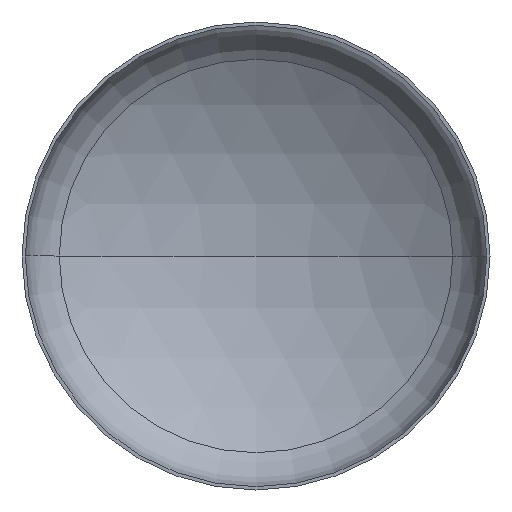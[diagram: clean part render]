
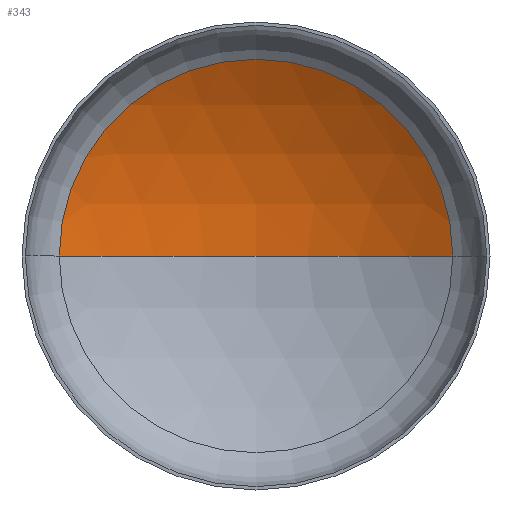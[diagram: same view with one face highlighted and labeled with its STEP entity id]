
A CAD part, front view. The second image highlights one B-rep face of the part: STEP entity #343.
In plain terms, the highlighted spherical face has radius 1360 mm.
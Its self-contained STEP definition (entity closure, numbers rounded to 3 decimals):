
#4 = DIRECTION ( 'NONE',  ( 0., -1., 0. ) ) ;
#9 = CARTESIAN_POINT ( 'NONE',  ( 0., 261.214, 0. ) ) ;
#10 = EDGE_LOOP ( 'NONE', ( #24, #222, #59 ) ) ;
#14 = AXIS2_PLACEMENT_3D ( 'NONE', #257, #383, #235 ) ;
#15 = AXIS2_PLACEMENT_3D ( 'NONE', #387, #275, #327 ) ;
#24 = ORIENTED_EDGE ( 'NONE', *, *, #349, .F. ) ;
#46 = AXIS2_PLACEMENT_3D ( 'NONE', #94, #195, #204 ) ;
#51 = AXIS2_PLACEMENT_3D ( 'NONE', #9, #4, #304 ) ;
#55 = VERTEX_POINT ( 'NONE', #297 ) ;
#59 = ORIENTED_EDGE ( 'NONE', *, *, #126, .T. ) ;
#94 = CARTESIAN_POINT ( 'NONE',  ( 0., -895.904, 0. ) ) ;
#126 = EDGE_CURVE ( 'NONE', #178, #184, #128, .T. ) ;
#128 = CIRCLE ( 'NONE', #51, 714.618 ) ;
#155 = EDGE_CURVE ( 'NONE', #55, #178, #272, .T. ) ;
#162 = CIRCLE ( 'NONE', #15, 1360. ) ;
#178 = VERTEX_POINT ( 'NONE', #227 ) ;
#184 = VERTEX_POINT ( 'NONE', #273 ) ;
#195 = DIRECTION ( 'NONE',  ( 0., 0., -1. ) ) ;
#204 = DIRECTION ( 'NONE',  ( -1., 0., 0. ) ) ;
#222 = ORIENTED_EDGE ( 'NONE', *, *, #155, .T. ) ;
#227 = CARTESIAN_POINT ( 'NONE',  ( 714.618, 261.214, 0. ) ) ;
#235 = DIRECTION ( 'NONE',  ( -1., 0., 0. ) ) ;
#257 = CARTESIAN_POINT ( 'NONE',  ( 0., -895.904, 0. ) ) ;
#272 = CIRCLE ( 'NONE', #46, 1360. ) ;
#273 = CARTESIAN_POINT ( 'NONE',  ( -714.618, 261.214, 0. ) ) ;
#275 = DIRECTION ( 'NONE',  ( 0., 0., 1. ) ) ;
#297 = CARTESIAN_POINT ( 'NONE',  ( 0., 464.096, 0. ) ) ;
#301 = SPHERICAL_SURFACE ( 'NONE', #14, 1360. ) ;
#304 = DIRECTION ( 'NONE',  ( 1., 0., 0. ) ) ;
#327 = DIRECTION ( 'NONE',  ( 1., 0., 0. ) ) ;
#343 = ADVANCED_FACE ( 'NONE', ( #376 ), #301, .F. ) ;
#349 = EDGE_CURVE ( 'NONE', #55, #184, #162, .T. ) ;
#376 = FACE_OUTER_BOUND ( 'NONE', #10, .T. ) ;
#383 = DIRECTION ( 'NONE',  ( 0., 0., -1. ) ) ;
#387 = CARTESIAN_POINT ( 'NONE',  ( 0., -895.904, 0. ) ) ;
